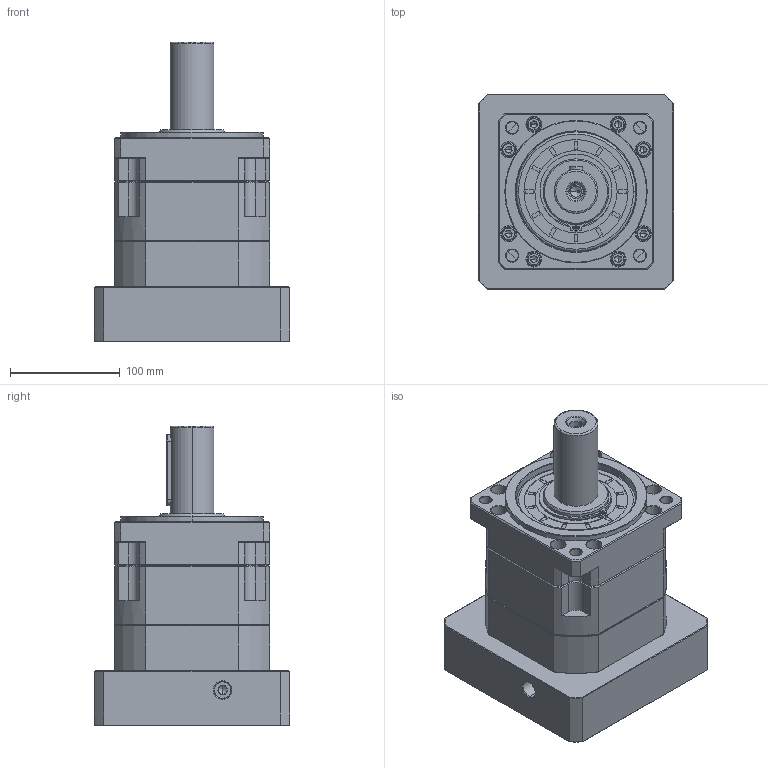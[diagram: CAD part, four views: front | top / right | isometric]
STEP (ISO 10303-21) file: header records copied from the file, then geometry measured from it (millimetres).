
FILE_DESCRIPTION (( 'STEP AP214' ), '1' );
FILE_NAME ('ZB142A-D40-L1-35-150-200-M12.step', '2023-03-17T10:46:29', ( '' ), ( '' ), 'SwSTEP 2.0', 'SolidWorks 2016', '' );
FILE_SCHEMA (( 'AUTOMOTIVE_DESIGN' ));
Length unit declared in the file: millimetre
Products named in the file (1): ZB142A-D40-L1-35-150-200-M12
Bounding box: 178 x 178 x 273.2 mm (x, y, z)
Volume: 3765764.1 mm3; surface area: 318170.6 mm2
Topology: 6 solids, 6 shells, 2024 faces, 5349 edges, 3424 vertices
Faces by surface type: plane 923, cylinder 414, cone 352, bspline 313, torus 22
Entity records: 113652 total; most frequent: CARTESIAN_POINT 43762, ORIENTED_EDGE 10638, DIRECTION 8777, EDGE_CURVE 5319, VERTEX_POINT 3424, LINE 3265, VECTOR 3265, AXIS2_PLACEMENT_3D 2756
